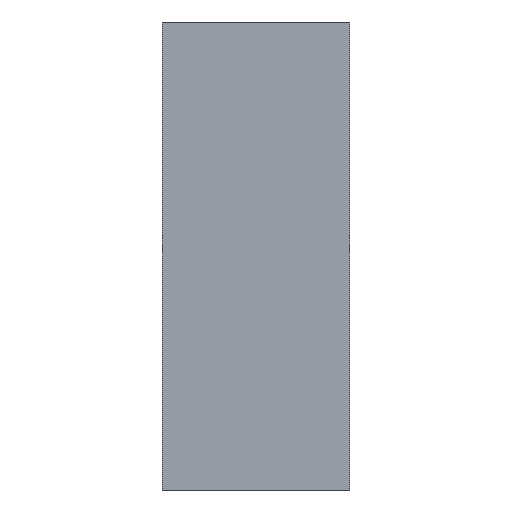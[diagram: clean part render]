
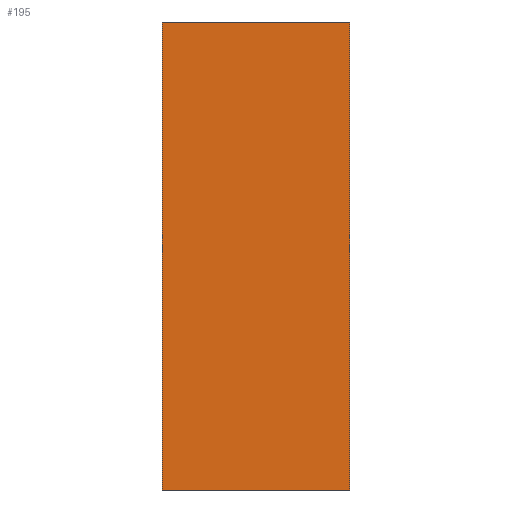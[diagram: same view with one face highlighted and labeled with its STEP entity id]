
A CAD part, front view. The second image highlights one B-rep face of the part: STEP entity #195.
In plain terms, the highlighted planar face has unit normal (0, -1, 0).
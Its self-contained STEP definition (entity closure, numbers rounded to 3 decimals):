
#19=PLANE('',#235);
#31=FACE_OUTER_BOUND('',#41,.T.);
#41=EDGE_LOOP('',(#159,#160,#161,#162));
#55=LINE('',#331,#71);
#56=LINE('',#333,#72);
#57=LINE('',#335,#73);
#58=LINE('',#336,#74);
#71=VECTOR('',#277,10.);
#72=VECTOR('',#278,10.);
#73=VECTOR('',#279,10.);
#74=VECTOR('',#280,10.);
#103=VERTEX_POINT('',#329);
#104=VERTEX_POINT('',#330);
#105=VERTEX_POINT('',#332);
#106=VERTEX_POINT('',#334);
#125=EDGE_CURVE('',#103,#104,#55,.T.);
#126=EDGE_CURVE('',#104,#105,#56,.T.);
#127=EDGE_CURVE('',#105,#106,#57,.T.);
#128=EDGE_CURVE('',#106,#103,#58,.T.);
#159=ORIENTED_EDGE('',*,*,#125,.T.);
#160=ORIENTED_EDGE('',*,*,#126,.T.);
#161=ORIENTED_EDGE('',*,*,#127,.T.);
#162=ORIENTED_EDGE('',*,*,#128,.T.);
#195=ADVANCED_FACE('',(#31),#19,.T.);
#235=AXIS2_PLACEMENT_3D('',#328,#275,#276);
#275=DIRECTION('center_axis',(0.,-1.,0.));
#276=DIRECTION('ref_axis',(0.,0.,-1.));
#277=DIRECTION('',(1.,0.,0.));
#278=DIRECTION('',(0.,0.,1.));
#279=DIRECTION('',(-1.,0.,0.));
#280=DIRECTION('',(0.,0.,-1.));
#328=CARTESIAN_POINT('Origin',(0.,-45.,0.));
#329=CARTESIAN_POINT('',(-4.,-45.,-10.));
#330=CARTESIAN_POINT('',(4.,-45.,-10.));
#331=CARTESIAN_POINT('',(4.,-45.,-10.));
#332=CARTESIAN_POINT('',(4.,-45.,10.));
#333=CARTESIAN_POINT('',(4.,-45.,10.));
#334=CARTESIAN_POINT('',(-4.,-45.,10.));
#335=CARTESIAN_POINT('',(-4.,-45.,10.));
#336=CARTESIAN_POINT('',(-4.,-45.,-10.));
